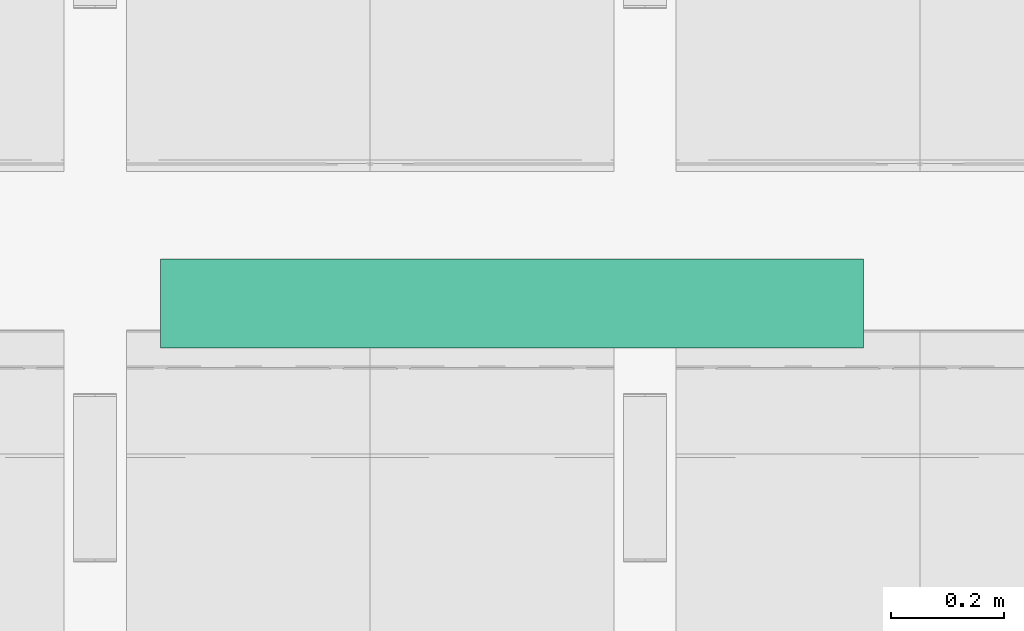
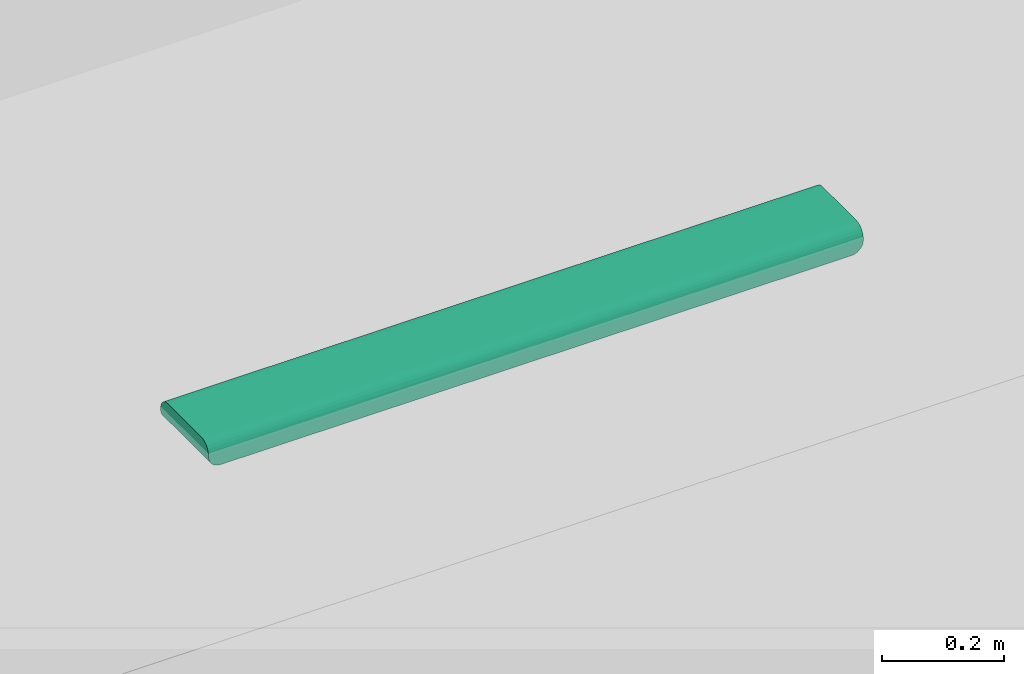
# One storey, part 61 of 155: 1 flow terminal.
"""IFC2X3 building model written with IfcOpenShell, lengths in metres."""

import ifcopenshell
import ifcopenshell.guid

model = None  # the IFC model being written
_history = None  # IfcOwnerHistory: only IFC2X3 demands one
_inside = {}  # id of a spatial element -> (the spatial element, [elements in it])
_under = {}  # id of a project, library or spatial element -> (it, [spatial elements below it])
_declared = {}  # id of a project -> (the project, [libraries it declares])
_typed = {}  # id of a type object -> (the type object, [elements of that type])
_made_of = {}  # id of a material, layer set ... -> (it, [elements and type objects made of it])


def new_model(schema):
    """Start an empty IFC model of exactly this schema.

    Asked for "IFC4X3", IfcOpenShell would pick the latest addendum, in which some entities
    have other attributes; the version numbers below select the first issue.
    IFC2X3 requires an IfcOwnerHistory on every rooted entity: one is made here for all.
    """
    global model, _history
    if schema == "IFC4X3":
        model = ifcopenshell.file(schema_version=(4, 3, 0, 0))
    else:
        model = ifcopenshell.file(schema=schema)
    _inside.clear()
    _under.clear()
    _declared.clear()
    _typed.clear()
    _made_of.clear()
    _history = None
    if model.schema == "IFC2X3":
        org = make("IfcOrganization", Name="unknown")
        user = make(
            "IfcPersonAndOrganization",
            ThePerson=make("IfcPerson", FamilyName="unknown"),
            TheOrganization=org,
        )
        app = make(
            "IfcApplication",
            ApplicationDeveloper=org,
            Version="unknown",
            ApplicationFullName="unknown",
            ApplicationIdentifier="unknown",
        )
        _history = make(
            "IfcOwnerHistory",
            OwningUser=user,
            OwningApplication=app,
            ChangeAction="ADDED",
            CreationDate=0,
        )
    return model


def make(cls, **values):
    """One entity of the class cls with the attributes given. An attribute that is None is left unset."""
    return model.create_entity(
        cls, **{name: value for name, value in values.items() if value is not None}
    )


def entity(cls, *values):
    """Any entity or typed value of the class cls, its attributes in the order of the schema. None: left unset."""
    e = model.create_entity(cls)
    for i, value in enumerate(values):
        if value is not None:
            e[i] = value
    return e


def rooted(cls, **values):
    """An entity with a GlobalId (a new one), such as an element, a storey or a relation."""
    return make(cls, GlobalId=ifcopenshell.guid.new(), OwnerHistory=_history, **values)


def si_unit(unit_type, name, prefix=None):
    """IfcSIUnit, for example si_unit("LENGTHUNIT", "METRE", prefix="MILLI")."""
    return make("IfcSIUnit", UnitType=unit_type, Prefix=prefix, Name=name)


def converted_unit(unit_type, name, factor, base, dimensions=None, offset=None):
    """IfcConversionBasedUnit, such as the inch: factor (a typed value) times the base unit."""
    return make(
        "IfcConversionBasedUnit"
        if offset is None
        else "IfcConversionBasedUnitWithOffset",
        ConversionOffset=offset,
        Dimensions=None
        if dimensions is None
        else entity("IfcDimensionalExponents", *dimensions),
        UnitType=unit_type,
        Name=name,
        ConversionFactor=make(
            "IfcMeasureWithUnit", ValueComponent=factor, UnitComponent=base
        ),
    )


def derived_unit(unit_type, elements):
    """IfcDerivedUnit: a product of units, each with its exponent."""
    return make(
        "IfcDerivedUnit",
        Elements=[
            make("IfcDerivedUnitElement", Unit=unit, Exponent=power)
            for unit, power in elements
        ],
        UnitType=unit_type,
    )


def assignment(units):
    """IfcUnitAssignment: the units of a project."""
    return None if units is None else make("IfcUnitAssignment", Units=units)


def point(xyz):
    """IfcCartesianPoint."""
    return None if xyz is None else make("IfcCartesianPoint", Coordinates=xyz)


def direction(xyz):
    """IfcDirection."""
    return None if xyz is None else make("IfcDirection", DirectionRatios=xyz)


def frame(location, z_axis=None, x_axis=None):
    """IfcAxis2Placement3D, a coordinate frame: its origin and axes. An axis left out is left unset."""
    return make(
        "IfcAxis2Placement3D",
        Location=point(location),
        Axis=direction(z_axis),
        RefDirection=direction(x_axis),
    )


def origin():
    """The frame at (0, 0, 0) with its axes left unset."""
    return frame((0.0, 0.0, 0.0))


def place(relative_to, where):
    """IfcLocalPlacement: puts the frame where relative to a parent placement (None: the world)."""
    return make(
        "IfcLocalPlacement", PlacementRelTo=relative_to, RelativePlacement=where
    )


def context(
    kind, dimensions, precision=None, world=None, true_north=None, identifier=None
):
    """IfcGeometricRepresentationContext, for example the 3D "Model" context."""
    return make(
        "IfcGeometricRepresentationContext",
        ContextIdentifier=identifier,
        ContextType=kind,
        CoordinateSpaceDimension=dimensions,
        Precision=precision,
        WorldCoordinateSystem=world,
        TrueNorth=true_north,
    )


def subcontext(parent, identifier, kind, view, scale=None):
    """IfcGeometricRepresentationSubContext, for example "Body" below "Model"."""
    return make(
        "IfcGeometricRepresentationSubContext",
        ContextIdentifier=identifier,
        ContextType=kind,
        ParentContext=parent,
        TargetScale=scale,
        TargetView=view,
    )


def project(units=None, contexts=None):
    """IfcProject with its units and contexts."""
    return rooted(
        "IfcProject",
        Name="project",
        RepresentationContexts=contexts,
        UnitsInContext=assignment(units),
    )


def spatial(cls, under=None, at=None, **own):
    """A site, building, storey or space (cls), placed at a placement, below another one or the project."""
    s = rooted(cls, ObjectPlacement=at, **own)
    if under is not None:
        _under.setdefault(under.id(), (under, []))[1].append(s)
    return s


def faces_of(points, faces, orient=None, outer=None):
    """IfcFace entities. A face is a list of loops; a loop is a list of indices into points, from 0.

    orient and outer hold one flag for each loop. By default every Orientation is true, the
    first loop of a face is its IfcFaceOuterBound and the others are IfcFaceBound.
    """
    made = []
    for i, loops in enumerate(faces):
        bounds = []
        for j, loop in enumerate(loops):
            is_outer = j == 0 if outer is None else outer[i][j]
            bounds.append(
                make(
                    "IfcFaceOuterBound" if is_outer else "IfcFaceBound",
                    Bound=make("IfcPolyLoop", Polygon=[points[k] for k in loop]),
                    Orientation=True if orient is None else orient[i][j],
                )
            )
        made.append(make("IfcFace", Bounds=bounds))
    return made


def faceted_brep(points, faces, orient=None, outer=None, voids=None):
    """IfcFacetedBrep: a solid bounded by flat faces; with voids (closed shells), ...WithVoids."""
    shared = [point(p) for p in points]
    hull = make("IfcClosedShell", CfsFaces=faces_of(shared, faces, orient, outer))
    if voids is None:
        return make("IfcFacetedBrep", Outer=hull)
    return make(
        "IfcFacetedBrepWithVoids",
        Outer=hull,
        Voids=[
            make(cls, CfsFaces=faces_of(shared, fs, o, b)) for cls, fs, o, b in voids
        ],
    )


def shape(context_of_items, identifier, shape_type, items):
    """IfcShapeRepresentation: the items that make up one representation, for example the "Body"."""
    return make(
        "IfcShapeRepresentation",
        ContextOfItems=context_of_items,
        RepresentationIdentifier=identifier,
        RepresentationType=shape_type,
        Items=items,
    )


def source(mapping_origin, context_of_items, identifier, shape_type, items):
    """IfcRepresentationMap: a shape defined once, which mapped items show again and again."""
    return make(
        "IfcRepresentationMap",
        MappingOrigin=mapping_origin,
        MappedRepresentation=shape(context_of_items, identifier, shape_type, items),
    )


def transform(
    local_origin,
    x_axis=None,
    y_axis=None,
    z_axis=None,
    scale=None,
    scale2=None,
    scale3=None,
    uniform=True,
):
    """IfcCartesianTransformationOperator3D, or its non-uniform kind. x_axis, y_axis, z_axis: its Axis1, 2, 3."""
    if uniform:
        return make(
            "IfcCartesianTransformationOperator3D",
            Axis1=direction(x_axis),
            Axis2=direction(y_axis),
            LocalOrigin=point(local_origin),
            Scale=scale,
            Axis3=direction(z_axis),
        )
    return make(
        "IfcCartesianTransformationOperator3DnonUniform",
        Axis1=direction(x_axis),
        Axis2=direction(y_axis),
        LocalOrigin=point(local_origin),
        Scale=scale,
        Axis3=direction(z_axis),
        Scale2=scale2,
        Scale3=scale3,
    )


def mapped(mapping_source, mapping_target):
    """IfcMappedItem: shows the shape of a source again, moved by a transform."""
    return make(
        "IfcMappedItem", MappingSource=mapping_source, MappingTarget=mapping_target
    )


def material(Name=None, Category=None):
    """IfcMaterial."""
    return make("IfcMaterial", Name=Name, Category=Category)


def material_list(materials):
    """IfcMaterialList."""
    return make("IfcMaterialList", Materials=materials)


def made_of(thing, what):
    """Note that an element or type object is made of a material, layer set ...; save() writes the relation."""
    if what is not None:
        _made_of.setdefault(what.id(), (what, []))[1].append(thing)
    return thing


def type_object(cls, material=None, **own):
    """A type object (cls), such as IfcWallType, which elements share."""
    return made_of(rooted(cls, **own), material)


def type_shapes(of_type, sources):
    """Give a type object the sources (RepresentationMaps) that its elements show as mapped items."""
    of_type.RepresentationMaps = sources


def element(
    cls,
    number,
    at=None,
    inside=None,
    cuts=None,
    type_object=None,
    material=None,
    context=None,
    identifier="Body",
    shape_type=None,
    held_by="IfcProductDefinitionShape",
    body=None,
    shapes=None,
    **own,
):
    """One element of the class cls, such as IfcWall. Its Tag is "e" and its number.

    at: its placement. inside: the storey or other place that contains it. cuts: it is an
    opening in that element (IfcRelVoidsElement). A single representation is given by context,
    identifier, shape_type and body (its items); several are given by shapes. held_by: the class
    of the entity that holds the representations. save() writes the other relations.
    """
    e = rooted(cls, Tag="e%d" % number, ObjectPlacement=at, **own)
    if body is not None:
        shapes = [shape(context, identifier, shape_type, body)]
    if shapes is not None:
        e.Representation = make(held_by, Representations=shapes)
    if inside is not None:
        _inside.setdefault(inside.id(), (inside, []))[1].append(e)
    if cuts is not None:
        rooted(
            "IfcRelVoidsElement", RelatingBuildingElement=cuts, RelatedOpeningElement=e
        )
    if type_object is not None:
        _typed.setdefault(type_object.id(), (type_object, []))[1].append(e)
    return made_of(e, material)


def aggregate(whole, parts):
    """IfcRelAggregates: a whole, such as a stair, and the parts it consists of."""
    return rooted("IfcRelAggregates", RelatingObject=whole, RelatedObjects=parts)


def save(model, path):
    """Write the relations noted so far, then the file.

    IfcRelAggregates (storeys below a building ...), IfcRelContainedInSpatialStructure (elements
    in a storey), IfcRelDefinesByType, IfcRelAssociatesMaterial and IfcRelDeclares: one each for
    every whole, place, type object, material and project.
    """
    for whole, parts in _under.values():
        aggregate(whole, parts)
    for where, things in _inside.values():
        rooted(
            "IfcRelContainedInSpatialStructure",
            RelatedElements=things,
            RelatingStructure=where,
        )
    for kind, things in _typed.values():
        rooted("IfcRelDefinesByType", RelatedObjects=things, RelatingType=kind)
    for what, things in _made_of.values():
        rooted("IfcRelAssociatesMaterial", RelatedObjects=things, RelatingMaterial=what)
    for by, libraries in _declared.values():
        rooted("IfcRelDeclares", RelatingContext=by, RelatedDefinitions=libraries)
    model.write(path)


model = new_model("IFC2X3")

# Units and contexts
model_context = context("Model", 3, precision=1e-05, world=origin(), true_north=direction((6.12303176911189e-17, 1.0)))
body_context = subcontext(model_context, "Body", "Model", "MODEL_VIEW")
ifc_project = project(units=[si_unit("LENGTHUNIT", "METRE"), si_unit("AREAUNIT", "SQUARE_METRE"), si_unit("VOLUMEUNIT", "CUBIC_METRE"), converted_unit("PLANEANGLEUNIT", "DEGREE", entity("IfcRatioMeasure", 0.0174532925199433), si_unit("PLANEANGLEUNIT", "RADIAN"), dimensions=[0, 0, 0, 0, 0, 0, 0]), si_unit("MASSUNIT", "GRAM", prefix="KILO"), derived_unit("MASSDENSITYUNIT", [(si_unit("MASSUNIT", "GRAM", prefix="KILO"), 1), (si_unit("LENGTHUNIT", "METRE"), -3)]), si_unit("TIMEUNIT", "SECOND"), si_unit("FREQUENCYUNIT", "HERTZ"), si_unit("THERMODYNAMICTEMPERATUREUNIT", "DEGREE_CELSIUS"), derived_unit("THERMALTRANSMITTANCEUNIT", [(si_unit("MASSUNIT", "GRAM", prefix="KILO"), 1), (si_unit("THERMODYNAMICTEMPERATUREUNIT", "KELVIN"), -1), (si_unit("TIMEUNIT", "SECOND"), -3)]), derived_unit("VOLUMETRICFLOWRATEUNIT", [(si_unit("LENGTHUNIT", "METRE"), 3), (si_unit("TIMEUNIT", "SECOND"), -1)]), si_unit("ELECTRICCURRENTUNIT", "AMPERE"), si_unit("ELECTRICVOLTAGEUNIT", "VOLT"), si_unit("POWERUNIT", "WATT"), si_unit("FORCEUNIT", "NEWTON", prefix="KILO"), si_unit("ILLUMINANCEUNIT", "LUX"), si_unit("LUMINOUSFLUXUNIT", "LUMEN"), si_unit("LUMINOUSINTENSITYUNIT", "CANDELA"), derived_unit("USERDEFINED", [(si_unit("MASSUNIT", "GRAM", prefix="KILO"), -1), (si_unit("LENGTHUNIT", "METRE"), -2), (si_unit("TIMEUNIT", "SECOND"), 3), (si_unit("LUMINOUSFLUXUNIT", "LUMEN"), 1)]), derived_unit("LINEARVELOCITYUNIT", [(si_unit("LENGTHUNIT", "METRE"), 1), (si_unit("TIMEUNIT", "SECOND"), -1)]), si_unit("PRESSUREUNIT", "PASCAL"), derived_unit("USERDEFINED", [(si_unit("LENGTHUNIT", "METRE"), -2), (si_unit("MASSUNIT", "GRAM", prefix="KILO"), 1), (si_unit("TIMEUNIT", "SECOND"), -2)])], contexts=[model_context])

# Site, building, storey, space
site_placement = place(None, frame((26.9889013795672, -17.5624287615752, 0.0)))
site = spatial("IfcSite", under=ifc_project, at=site_placement, Name="Default", CompositionType="ELEMENT")
building_placement = place(site_placement, origin())
building = spatial("IfcBuilding", under=site, at=building_placement, Name="C. C. L. Monsenhor Antônio Sampaio", CompositionType="ELEMENT")
storey_placement = place(building_placement, frame((0.0, 0.0, 1.19999999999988)))
storey = spatial("IfcBuildingStorey", under=building, at=storey_placement, Name="Nível 1.2", CompositionType="ELEMENT", Elevation=1.19999999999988)
space_placement = place(storey_placement, origin())
space = spatial("IfcSpace", under=storey, at=space_placement, Name="94", CompositionType="ELEMENT", InteriorOrExteriorSpace="INTERNAL")

# Flow terminal
ifc_material_1 = material(Name="glass - blue - t85")
ifc_material_2 = material(Name="metal - aluminium")
ifc_material_list_1 = material_list([ifc_material_1, ifc_material_2])
ifc_material_list_2 = material_list([ifc_material_1, ifc_material_2])
light_fixture_type = type_object("IfcLightFixtureType", Name="BCS460 W16L124 1xLED24/840 MLO-PC", PredefinedType="NOTDEFINED", material=ifc_material_list_2)
shared_shape = source(origin(), body_context, "Body", "Brep", [
    faceted_brep([(0.585000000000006, 0.0435000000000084, -0.0460000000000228), (0.585000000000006, -0.0434999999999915, -0.0460000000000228), (0.585000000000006, -0.0434999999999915, -0.0490000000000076), (0.585000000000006, 0.0435000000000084, -0.0490000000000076), (-0.584999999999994, 0.0435000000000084, -0.0460000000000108), (-0.584999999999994, 0.0435000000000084, -0.0489999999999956), (-0.584999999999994, -0.0434999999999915, -0.0489999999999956), (-0.584999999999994, -0.0434999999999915, -0.0460000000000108)], [[[0, 1, 2, 3]], [[4, 5, 6, 7]], [[3, 5, 4, 0]], [[2, 6, 5, 3]], [[1, 7, 6, 2]], [[0, 4, 7, 1]]]),
    faceted_brep([(-0.584999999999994, -0.0434999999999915, -0.0489999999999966), (0.585000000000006, -0.0434999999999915, -0.0490000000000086), (0.585000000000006, -0.0554999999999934, -0.0490000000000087), (0.417543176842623, -0.0554999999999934, -0.0490000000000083), (0.334912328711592, -0.0554999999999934, -0.0490000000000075), (0.209867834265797, -0.0554999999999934, -0.0490000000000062), (0.0848246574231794, -0.0554999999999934, -0.0490000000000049), (-0.0826321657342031, -0.0554999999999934, -0.0490000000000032), (-0.250087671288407, -0.0554999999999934, -0.0490000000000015), (-0.417543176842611, -0.0554999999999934, -0.0489999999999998), (-0.584999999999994, -0.0554999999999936, -0.0489999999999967), (-0.584999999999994, 0.0435000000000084, -0.0489999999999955), (-0.584999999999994, 0.0555000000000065, -0.0489999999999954), (-0.417543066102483, 0.0555000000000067, -0.0489999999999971), (-0.334913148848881, 0.0555000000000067, -0.048999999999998), (-0.209868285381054, 0.0555000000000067, -0.0489999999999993), (-0.0848248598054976, 0.0555000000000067, -0.0490000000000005), (0.0826306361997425, 0.0555000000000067, -0.0490000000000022), (0.250087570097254, 0.0555000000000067, -0.049000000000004), (0.417544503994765, 0.0555000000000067, -0.0490000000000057), (0.585000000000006, 0.0555000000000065, -0.0490000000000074), (0.585000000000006, 0.0435000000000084, -0.0490000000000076), (0.585000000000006, -0.0434999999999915, -0.0190000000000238), (0.585000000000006, 0.0435000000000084, -0.0190000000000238), (0.585000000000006, 0.0614528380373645, -0.0482162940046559), (0.585000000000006, 0.0670000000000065, -0.0459185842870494), (0.585000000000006, 0.0717634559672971, -0.0422634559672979), (0.585000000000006, 0.0754185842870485, -0.0375000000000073), (0.585000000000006, 0.077716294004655, -0.0319528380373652), (0.585000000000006, 0.0785000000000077, -0.0260000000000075), (0.585000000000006, 0.0785000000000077, 0.0), (0.585000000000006, -0.0784999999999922, 0.0), (0.585000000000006, -0.0784999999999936, -0.02600000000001), (0.585000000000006, -0.0777162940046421, -0.031952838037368), (0.585000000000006, -0.0754185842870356, -0.03750000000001), (0.585000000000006, -0.0717634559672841, -0.0422634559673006), (0.585000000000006, -0.0669999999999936, -0.0459185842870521), (0.585000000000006, -0.0614528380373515, -0.0482162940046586), (-0.584999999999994, 0.0435000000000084, -0.0190000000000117), (-0.584999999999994, -0.0434999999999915, -0.0190000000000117), (-0.584999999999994, -0.0614528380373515, -0.0482162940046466), (-0.584999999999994, -0.0669999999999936, -0.0459185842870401), (-0.584999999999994, -0.0717634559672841, -0.0422634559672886), (-0.584999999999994, -0.0754185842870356, -0.037499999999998), (-0.584999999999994, -0.0777162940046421, -0.031952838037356), (-0.584999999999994, -0.0784999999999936, -0.025999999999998), (-0.584999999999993, -0.0784999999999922, 0.0), (-0.584999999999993, 0.0785000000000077, 0.0), (-0.584999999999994, 0.0785000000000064, -0.0259999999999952), (-0.584999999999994, 0.077716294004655, -0.0319528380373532), (-0.584999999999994, 0.0754185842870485, -0.0374999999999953), (-0.584999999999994, 0.0717634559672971, -0.0422634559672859), (-0.584999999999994, 0.0670000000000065, -0.0459185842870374), (-0.584999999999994, 0.0614528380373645, -0.0482162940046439), (0.417543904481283, 0.0785000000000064, -0.0260000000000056), (0.334912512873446, 0.0785000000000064, -0.0260000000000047), (0.209868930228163, 0.0785000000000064, -0.0260000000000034), (0.0848250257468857, 0.0785000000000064, -0.0260000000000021), (-0.0826310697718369, 0.0785000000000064, -0.0260000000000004), (-0.250087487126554, 0.0785000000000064, -0.0259999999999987), (-0.417543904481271, 0.0785000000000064, -0.025999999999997), (-0.430283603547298, 0.073747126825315, -0.0400015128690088), (-0.39346878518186, 0.069501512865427, -0.0442471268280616), (-0.441987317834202, 0.0643017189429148, -0.0472492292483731), (-0.435801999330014, 0.0759760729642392, -0.0364752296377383), (0.43028360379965, 0.0695015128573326, -0.0442471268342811), (0.393468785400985, 0.0737471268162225, -0.0400015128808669), (-0.166359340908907, 0.0777768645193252, -0.0317220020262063), (-0.333815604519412, 0.078144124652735, -0.0300303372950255), (0.441987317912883, 0.0767492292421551, -0.0348017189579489), (0.376228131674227, 0.0780233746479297, -0.0306580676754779), (-0.0103058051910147, 0.0779837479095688, -0.0308457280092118), (0.147346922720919, 0.0778835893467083, -0.0312891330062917), (0.0846877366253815, 0.0752228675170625, -0.0378325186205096), (0.113930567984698, 0.0669406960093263, -0.0459527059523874), (0.259392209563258, 0.0628104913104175, -0.0478072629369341), (0.138751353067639, 0.0626656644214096, -0.0478552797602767), (-0.327642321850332, 0.0767492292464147, -0.0348017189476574), (-0.44845841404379, 0.0775260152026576, -0.0326222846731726), (0.274715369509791, 0.0767492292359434, -0.0348017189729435), (0.37104983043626, 0.0643017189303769, -0.0472492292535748), (0.333815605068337, 0.0596187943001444, -0.0486282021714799), (0.0893720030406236, 0.0707479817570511, -0.0432191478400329), (-0.0153938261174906, 0.0683034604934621, -0.0451068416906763), (-0.376228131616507, 0.0601580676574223, -0.0485233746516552), (0.0434325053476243, 0.059742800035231, -0.048605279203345), (0.218757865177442, 0.0695015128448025, -0.0442471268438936), (0.464656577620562, 0.0597129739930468, -0.0486108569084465), (0.199843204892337, 0.0732493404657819, -0.0406274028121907), (-0.274715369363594, 0.0643017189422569, -0.0472492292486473), (-0.115235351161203, 0.073747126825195, -0.0400015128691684), (-0.150791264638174, 0.070206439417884, -0.0436839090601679), (-0.272759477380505, 0.0724713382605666, -0.0415233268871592), (-0.00814072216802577, 0.0636892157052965, -0.0474927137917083), (-0.14734692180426, 0.0607891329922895, -0.0483835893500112), (-0.269938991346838, 0.0692956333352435, -0.0444032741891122), (-0.201904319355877, 0.0758204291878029, -0.0367740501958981), (-0.0663340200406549, 0.0763921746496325, -0.0356185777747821), (-0.139314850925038, 0.066006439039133, -0.046460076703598), (-0.430283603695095, -0.0695015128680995, -0.0442471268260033), (-0.393468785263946, -0.073747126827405, -0.0400015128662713), (-0.44198731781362, -0.0767492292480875, -0.0348017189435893), (-0.435801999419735, -0.06597522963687, -0.0464760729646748), (0.430283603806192, -0.0737471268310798, -0.0400015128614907), (0.393468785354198, -0.0695015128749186, -0.0442471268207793), (-0.166359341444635, -0.061222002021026, -0.0482768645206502), (-0.333815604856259, -0.0595303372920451, -0.0486441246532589), (0.441987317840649, -0.0643017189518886, -0.0472492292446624), (0.37622813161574, -0.0601580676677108, -0.0485233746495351), (-0.0103058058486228, -0.0603457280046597, -0.0484837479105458), (0.147346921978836, -0.0607891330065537, -0.0483835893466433), (0.0846877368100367, -0.0673325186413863, -0.0457228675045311), (0.113930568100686, -0.0754527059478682, -0.0374406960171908), (0.259392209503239, -0.0773072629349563, -0.0333104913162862), (0.138751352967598, -0.0773552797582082, -0.0331656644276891), (-0.327642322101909, -0.0643017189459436, -0.047249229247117), (-0.448458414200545, -0.062122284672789, -0.048026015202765), (-0.417543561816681, -0.0784999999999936, -0.0259999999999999), (0.274715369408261, -0.0643017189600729, -0.0472492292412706), (0.371049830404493, -0.0767492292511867, -0.0348017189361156), (0.333815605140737, -0.0781282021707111, -0.0301187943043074), (0.250087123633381, -0.0784999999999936, -0.0260000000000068), (0.0893720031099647, -0.0727191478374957, -0.041247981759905), (-0.0153938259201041, -0.074606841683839, -0.0388034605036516), (-0.376228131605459, -0.0780233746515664, -0.0306580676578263), (0.0826306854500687, -0.0784999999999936, -0.026000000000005), (-0.0848257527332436, -0.0784999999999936, -0.0260000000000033), (0.0434325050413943, -0.0781052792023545, -0.030242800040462), (0.417543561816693, -0.0784999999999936, -0.0260000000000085), (0.21875786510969, -0.0737471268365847, -0.0400015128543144), (0.464656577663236, -0.0781108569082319, -0.0302129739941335), (0.19984320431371, -0.0701274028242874, -0.0437493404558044), (-0.274715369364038, -0.0767492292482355, -0.0348017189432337), (-0.115235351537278, -0.0695015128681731, -0.0442471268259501), (-0.150791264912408, -0.0731839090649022, -0.0407064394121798), (-0.209869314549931, -0.0784999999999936, -0.026000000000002), (-0.334912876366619, -0.0784999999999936, -0.0260000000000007), (-0.272759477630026, -0.071023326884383, -0.0429713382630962), (-0.00814072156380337, -0.0769927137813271, -0.0341892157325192), (-0.147346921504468, -0.0778835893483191, -0.03128913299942), (-0.269938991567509, -0.0739032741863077, -0.0397956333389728), (-0.201904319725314, -0.0662740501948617, -0.0463204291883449), (-0.0663340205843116, -0.0651185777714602, -0.0468921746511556), (-0.139314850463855, -0.0759600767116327, -0.0365064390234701)], [[[0, 1, 2, 3, 4, 5, 6, 7, 8, 9, 10]], [[11, 12, 13, 14, 15, 16, 17, 18, 19, 20, 21]], [[22, 23, 21, 20, 24, 25, 26, 27, 28, 29, 30, 31, 32, 33, 34, 35, 36, 37, 2, 1]], [[12, 11, 38, 39, 0, 10, 40, 41, 42, 43, 44, 45, 46, 47, 48, 49, 50, 51, 52, 53]], [[47, 30, 29, 54, 55, 56, 57, 58, 59, 60, 48]], [[61, 51, 50]], [[62, 51, 61]], [[51, 62, 52]], [[62, 63, 52]], [[63, 53, 52]], [[61, 50, 64]], [[26, 65, 66]], [[26, 25, 65]], [[54, 29, 28]], [[67, 68, 59]], [[69, 70, 28]], [[71, 72, 73]], [[74, 75, 76]], [[26, 66, 27]], [[77, 78, 68]], [[13, 12, 53]], [[69, 27, 66]], [[79, 73, 72]], [[24, 80, 25]], [[70, 79, 72]], [[69, 28, 27]], [[75, 81, 18]], [[82, 74, 83]], [[63, 84, 53]], [[17, 16, 85]], [[19, 18, 81]], [[75, 74, 86]], [[87, 81, 80]], [[73, 79, 88]], [[70, 56, 55, 54]], [[80, 86, 65]], [[89, 63, 62]], [[90, 83, 91]], [[84, 15, 14, 13]], [[61, 77, 92]], [[59, 68, 60]], [[78, 49, 48]], [[20, 87, 24]], [[93, 76, 85]], [[66, 65, 86]], [[65, 25, 80]], [[62, 61, 92]], [[77, 64, 78]], [[92, 90, 91]], [[89, 94, 84]], [[28, 70, 54]], [[79, 69, 66]], [[53, 84, 13]], [[91, 95, 92]], [[96, 90, 92]], [[56, 72, 57]], [[70, 69, 79]], [[70, 72, 56]], [[67, 59, 58]], [[71, 67, 58]], [[71, 58, 57]], [[83, 90, 82]], [[88, 82, 73]], [[96, 97, 90]], [[71, 73, 97]], [[15, 94, 16]], [[84, 63, 89]], [[84, 94, 15]], [[98, 83, 93]], [[83, 98, 91]], [[18, 17, 76]], [[62, 92, 95]], [[98, 95, 91]], [[98, 94, 89]], [[74, 76, 93]], [[93, 94, 98]], [[85, 16, 94]], [[19, 81, 87]], [[80, 81, 75]], [[19, 87, 20]], [[24, 87, 80]], [[78, 48, 60]], [[77, 68, 67]], [[68, 78, 60]], [[49, 78, 50]], [[78, 64, 50]], [[64, 77, 61]], [[94, 93, 85]], [[85, 76, 17]], [[97, 67, 71]], [[72, 71, 57]], [[77, 67, 96]], [[90, 97, 73]], [[97, 96, 67]], [[77, 96, 92]], [[80, 75, 86]], [[76, 75, 18]], [[95, 89, 62]], [[89, 95, 98]], [[86, 74, 82]], [[83, 74, 93]], [[86, 82, 88]], [[73, 82, 90]], [[88, 66, 86]], [[66, 88, 79]], [[99, 42, 41]], [[100, 42, 99]], [[42, 100, 43]], [[100, 101, 43]], [[101, 44, 43]], [[99, 41, 102]], [[35, 103, 104]], [[35, 34, 103]], [[3, 2, 37]], [[105, 106, 8]], [[107, 108, 37]], [[109, 110, 111]], [[112, 113, 114]], [[35, 104, 36]], [[115, 116, 106]], [[117, 45, 44]], [[107, 36, 104]], [[118, 111, 110]], [[33, 119, 34]], [[108, 118, 110]], [[107, 37, 36]], [[113, 120, 121]], [[122, 112, 123]], [[101, 124, 44]], [[125, 126, 127]], [[128, 121, 120]], [[113, 112, 129]], [[130, 120, 119]], [[111, 118, 131]], [[108, 5, 4, 3]], [[119, 129, 103]], [[132, 101, 100]], [[133, 123, 134]], [[124, 135, 136, 117]], [[99, 115, 137]], [[8, 106, 9]], [[116, 40, 10]], [[32, 130, 33]], [[138, 114, 127]], [[104, 103, 129]], [[103, 34, 119]], [[100, 99, 137]], [[115, 102, 116]], [[137, 133, 134]], [[132, 139, 124]], [[37, 108, 3]], [[118, 107, 104]], [[44, 124, 117]], [[134, 140, 137]], [[141, 133, 137]], [[5, 110, 6]], [[108, 107, 118]], [[108, 110, 5]], [[105, 8, 7]], [[109, 105, 7]], [[109, 7, 6]], [[123, 133, 122]], [[131, 122, 111]], [[141, 142, 133]], [[109, 111, 142]], [[135, 139, 126]], [[124, 101, 132]], [[124, 139, 135]], [[143, 123, 138]], [[123, 143, 134]], [[121, 125, 114]], [[100, 137, 140]], [[143, 140, 134]], [[143, 139, 132]], [[112, 114, 138]], [[138, 139, 143]], [[127, 126, 139]], [[128, 120, 130]], [[119, 120, 113]], [[128, 130, 32]], [[33, 130, 119]], [[116, 10, 9]], [[115, 106, 105]], [[106, 116, 9]], [[40, 116, 41]], [[116, 102, 41]], [[102, 115, 99]], [[139, 138, 127]], [[127, 114, 125]], [[142, 105, 109]], [[110, 109, 6]], [[115, 105, 141]], [[133, 142, 111]], [[142, 141, 105]], [[115, 141, 137]], [[119, 113, 129]], [[114, 113, 121]], [[140, 132, 100]], [[132, 140, 143]], [[129, 112, 122]], [[123, 112, 138]], [[129, 122, 131]], [[111, 122, 133]], [[131, 104, 129]], [[104, 131, 118]], [[31, 46, 45, 117, 136, 135, 126, 125, 121, 128, 32]], [[46, 31, 30, 47]], [[21, 23, 38, 11]], [[22, 1, 0, 39]], [[23, 22, 39, 38]]]),
    faceted_brep([(0.597000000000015, 0.0785000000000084, 0.0), (0.602952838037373, 0.0785000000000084, -0.000783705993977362), (0.608500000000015, 0.0785000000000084, -0.00308141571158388), (0.613263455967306, 0.0785000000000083, -0.00673654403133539), (0.616918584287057, 0.0785000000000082, -0.011499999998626), (0.619216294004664, 0.0785000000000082, -0.017047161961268), (0.620000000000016, 0.0785000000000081, -0.0229999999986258), (0.620000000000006, 0.0785000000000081, -0.0259999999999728), (0.585000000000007, 0.0785000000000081, -0.0259999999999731), (0.585000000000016, 0.0785000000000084, 0.0), (0.619216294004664, -0.0784999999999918, -0.0170471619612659), (0.616918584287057, -0.0784999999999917, -0.0114999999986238), (0.613263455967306, -0.0784999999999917, -0.00673654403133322), (0.608500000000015, -0.0784999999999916, -0.00308141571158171), (0.602952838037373, -0.0784999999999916, -0.000783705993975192), (0.597000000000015, -0.0784999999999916, 0.0), (0.585000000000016, -0.0784999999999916, 0.0), (0.585000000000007, -0.0784999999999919, -0.0260000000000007), (0.620000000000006, -0.0784999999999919, -0.0260000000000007), (0.620000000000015, -0.0784999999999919, -0.0229999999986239), (0.620000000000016, 0.0669999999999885, -0.0459185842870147), (0.620000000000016, 0.0717634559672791, -0.0422634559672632), (0.620000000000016, 0.0754185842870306, -0.0374999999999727), (0.620000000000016, 0.0777162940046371, -0.0319528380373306), (0.620000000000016, -0.0777162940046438, -0.0319528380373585), (0.620000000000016, -0.0754185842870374, -0.0375000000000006), (0.620000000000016, -0.071763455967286, -0.0422634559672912), (0.620000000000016, -0.0669999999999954, -0.0459185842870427), (0.620000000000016, -0.0614528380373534, -0.0482162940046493), (0.620000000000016, -0.0554999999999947, -0.0489999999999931), (0.620000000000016, 0.0554999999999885, -0.0489999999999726), (0.620000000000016, 0.0614528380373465, -0.0482162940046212), (0.585000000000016, 0.0554999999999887, -0.048999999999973), (0.585000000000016, -0.0554999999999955, -0.0490000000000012), (0.585000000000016, -0.0614528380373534, -0.0482162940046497), (0.585000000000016, -0.0669999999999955, -0.0459185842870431), (0.585000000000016, -0.071763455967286, -0.0422634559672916), (0.585000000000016, -0.0754185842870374, -0.0375000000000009), (0.585000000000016, -0.0777162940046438, -0.0319528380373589), (0.585000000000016, 0.0777162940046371, -0.031952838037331), (0.585000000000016, 0.0754185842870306, -0.037499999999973), (0.585000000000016, 0.0717634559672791, -0.0422634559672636), (0.585000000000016, 0.0669999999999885, -0.0459185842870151), (0.585000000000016, 0.0614528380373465, -0.0482162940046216)], [[[0, 1, 2, 3, 4, 5, 6, 7, 8, 9]], [[10, 11, 12, 13, 14, 15, 16, 17, 18, 19]], [[20, 21, 22, 23, 7, 6, 19, 18, 24, 25, 26, 27, 28, 29, 30, 31]], [[32, 33, 34, 35, 36, 37, 38, 17, 16, 9, 8, 39, 40, 41, 42, 43]], [[16, 15, 0, 9]], [[11, 10, 5, 4]], [[12, 11, 4, 3]], [[6, 5, 10, 19]], [[14, 13, 2, 1]], [[15, 14, 1, 0]], [[2, 13, 12, 3]], [[43, 31, 30, 32]], [[43, 42, 20, 31]], [[21, 20, 42, 41]], [[23, 22, 40, 39]], [[7, 23, 39, 8]], [[40, 22, 21, 41]], [[29, 33, 32, 30]], [[25, 24, 38, 37]], [[26, 25, 37, 36]], [[17, 38, 24, 18]], [[28, 27, 35, 34]], [[29, 28, 34, 33]], [[35, 27, 26, 36]]]),
    faceted_brep([(-0.608499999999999, 0.0785000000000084, -0.00308141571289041), (-0.602952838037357, 0.0785000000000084, -0.000783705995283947), (-0.597, 0.0785000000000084, 0.0), (-0.584999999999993, 0.0785000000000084, 0.0), (-0.584999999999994, 0.0785000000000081, -0.0260000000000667), (-0.619999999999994, 0.0785000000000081, -0.0260000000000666), (-0.619999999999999, 0.0785000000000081, -0.0229999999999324), (-0.619216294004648, 0.0785000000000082, -0.0170471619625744), (-0.616918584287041, 0.0785000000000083, -0.0114999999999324), (-0.61326345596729, 0.0785000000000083, -0.00673654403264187), (-0.584999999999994, -0.0784999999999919, -0.0260000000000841), (-0.584999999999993, -0.0784999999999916, 0.0), (-0.596999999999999, -0.0784999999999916, 0.0), (-0.602952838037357, -0.0784999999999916, -0.000783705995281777), (-0.608499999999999, -0.0784999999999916, -0.00308141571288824), (-0.61326345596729, -0.0784999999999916, -0.0067365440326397), (-0.616918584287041, -0.0784999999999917, -0.0114999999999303), (-0.619216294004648, -0.0784999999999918, -0.0170471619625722), (-0.619999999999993, -0.0784999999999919, -0.0229999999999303), (-0.619999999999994, -0.0784999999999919, -0.0260000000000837), (-0.619999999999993, 0.0777162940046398, -0.0319528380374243), (-0.619999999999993, 0.0754185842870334, -0.0375000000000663), (-0.619999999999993, 0.071763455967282, -0.042263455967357), (-0.619999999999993, 0.0669999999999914, -0.0459185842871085), (-0.619999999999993, 0.0614528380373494, -0.048216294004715), (-0.619999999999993, 0.0554999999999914, -0.0490000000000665), (-0.619999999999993, -0.0554999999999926, -0.0490000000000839), (-0.619999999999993, -0.0614528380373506, -0.0482162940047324), (-0.619999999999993, -0.0669999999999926, -0.0459185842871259), (-0.619999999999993, -0.0717634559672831, -0.0422634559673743), (-0.619999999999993, -0.0754185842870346, -0.0375000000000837), (-0.619999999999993, -0.0777162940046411, -0.0319528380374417), (-0.584999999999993, 0.0614528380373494, -0.0482162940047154), (-0.584999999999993, 0.0669999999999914, -0.0459185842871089), (-0.584999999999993, 0.071763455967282, -0.0422634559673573), (-0.584999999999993, 0.0754185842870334, -0.0375000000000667), (-0.584999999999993, 0.0777162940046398, -0.0319528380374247), (-0.584999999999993, -0.0777162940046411, -0.0319528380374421), (-0.584999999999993, -0.0754185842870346, -0.0375000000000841), (-0.584999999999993, -0.0717634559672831, -0.0422634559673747), (-0.584999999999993, -0.0669999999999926, -0.0459185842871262), (-0.584999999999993, -0.0614528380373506, -0.0482162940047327), (-0.584999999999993, -0.0554999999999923, -0.0490000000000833), (-0.584999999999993, 0.0554999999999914, -0.0490000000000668)], [[[0, 1, 2, 3, 4, 5, 6, 7, 8, 9]], [[10, 11, 12, 13, 14, 15, 16, 17, 18, 19]], [[5, 20, 21, 22, 23, 24, 25, 26, 27, 28, 29, 30, 31, 19, 18, 6]], [[32, 33, 34, 35, 36, 4, 3, 11, 10, 37, 38, 39, 40, 41, 42, 43]], [[12, 11, 3, 2]], [[14, 13, 1, 0]], [[15, 14, 0, 9]], [[2, 1, 13, 12]], [[17, 16, 8, 7]], [[18, 17, 7, 6]], [[8, 16, 15, 9]], [[22, 21, 35, 34]], [[36, 20, 5, 4]], [[21, 20, 36, 35]], [[24, 23, 33, 32]], [[25, 24, 32, 43]], [[33, 23, 22, 34]], [[26, 25, 43, 42]], [[28, 27, 41, 40]], [[29, 28, 40, 39]], [[42, 41, 27, 26]], [[31, 30, 38, 37]], [[19, 31, 37, 10]], [[38, 30, 29, 39]]]),
])
type_shapes(light_fixture_type, [shared_shape])
flow_terminal_placement = place(space_placement, frame((-11.990552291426, -11.0710663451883, 2.8), z_axis=(0.0, 0.0, -1.0), x_axis=(-1.0, 0.0, 0.0)))
element("IfcFlowTerminal", 1, at=flow_terminal_placement, inside=space, type_object=light_fixture_type, material=ifc_material_list_1, Name="63_PHILIPS_smartform-LED-surface_f:BCS460 W16L124 1xLED24/840 MLO-PC", ObjectType="BCS460 W16L124 1xLED24/840 MLO-PC", context=body_context, shape_type="MappedRepresentation", body=[
    mapped(shared_shape, transform((0.0, 0.0, 0.0), scale=1.0)),
])

save(model, "model.ifc")
